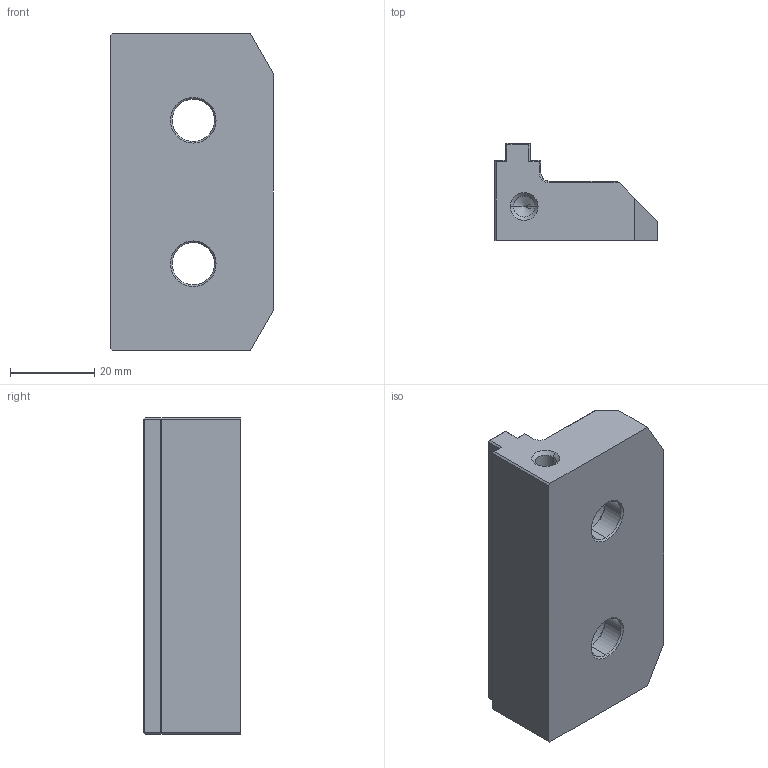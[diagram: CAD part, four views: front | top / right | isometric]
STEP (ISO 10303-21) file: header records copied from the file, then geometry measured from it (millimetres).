
FILE_DESCRIPTION (( 'STEP AP203' ), '1' );
FILE_NAME ('61M856841.STEP', '2022-07-22T04:33:30', ( '' ), ( '' ), 'SwSTEP 2.0', 'SolidWorks 2020', '' );
FILE_SCHEMA (( 'CONFIG_CONTROL_DESIGN' ));
Length unit declared in the file: millimetre
Products named in the file (1): 61M856841
Bounding box: 38.6 x 23 x 75 mm (x, y, z)
Volume: 37860.6 mm3; surface area: 10939.3 mm2
Topology: 1 solids, 1 shells, 76 faces, 190 edges, 114 vertices
Faces by surface type: plane 37, cone 24, cylinder 13, bspline 2
Entity records: 3271 total; most frequent: CARTESIAN_POINT 1387, DIRECTION 376, ORIENTED_EDGE 372, EDGE_CURVE 186, VECTOR 130, LINE 130, AXIS2_PLACEMENT_3D 123, VERTEX_POINT 114
